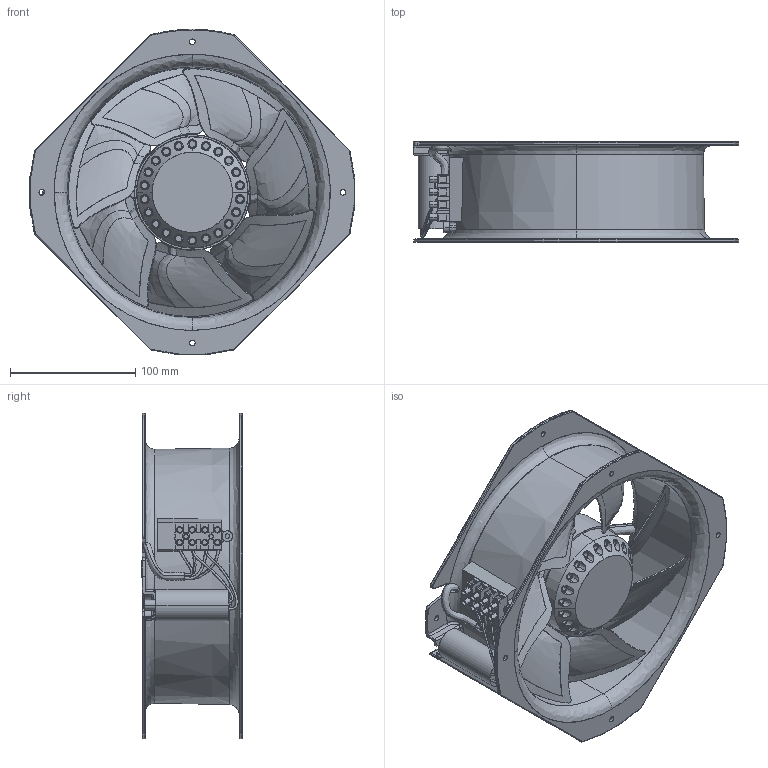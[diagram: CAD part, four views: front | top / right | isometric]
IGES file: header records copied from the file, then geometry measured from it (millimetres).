
Start section: SolidWorks IGES file using analytic representation for surfaces
Global section: file name: C:\Users\mschaefer.SOLIDPRO\Desktop\W2E200-HK38-01.igs; native system: SolidWorks 2010; preprocessor: SolidWorks 2010; author: mschaefer; date: 101221.103830; units: millimetre
Bounding box: 259.51 x 80.4 x 259.51 mm (x, y, z)
Surface area: 297491.6 mm2 (no closed solid volume)
Topology: 0 solids, 0 shells, 947 faces, 18763 edges, 18762 vertices
Faces by surface type: bspline 581, revolution 366
